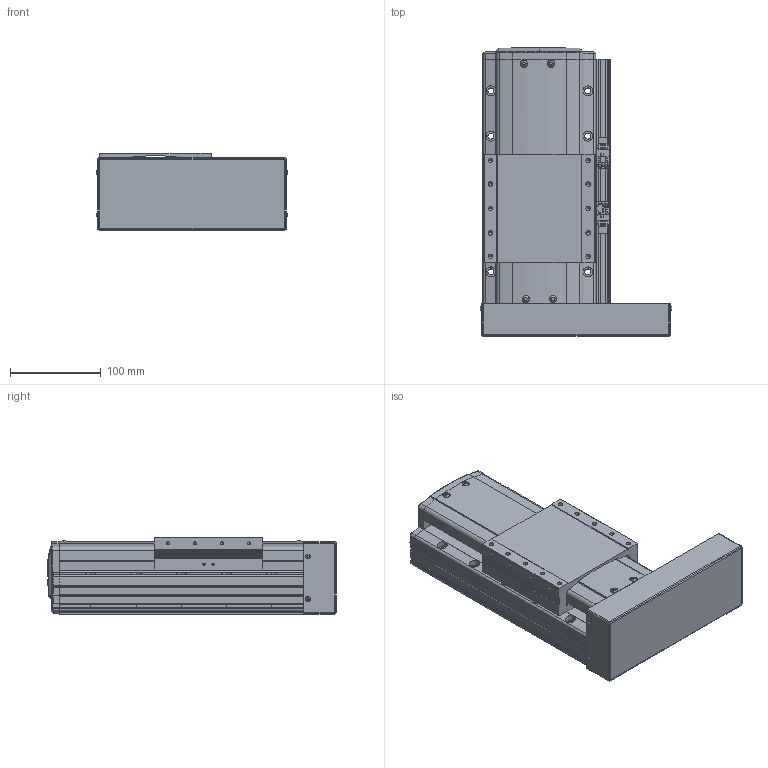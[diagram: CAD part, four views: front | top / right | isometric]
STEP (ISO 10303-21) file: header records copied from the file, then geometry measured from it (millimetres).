
FILE_DESCRIPTION(('STEP AP214'),'1');
FILE_NAME('Z:/Web/3D/PSA125/STP/PSA125-050 (3D)/PSA125ㅁㅁ-050PR+2SR.stp','2014-06-18T08:38:08',(' '),(' '),'Spatial InterOp 3D',' ',' ');
FILE_SCHEMA(('automotive_design'));
Length unit declared in the file: millimetre
Products named in the file (37): 스크루 : Round - M4.0 x 10.0; RRCV-PA120; SLIDE; BASE; FRCV-PA120-1(기준 뿔 제거); RR1500; 스크루 : Round - M4.0 x 6.0; 너트 : Square - M10.0 x 220.7419; BTCV - 60A; 스크루 : Round - M3.0 x 6.0; EE-SX674; SBK-SX674-352; M3.0 x 6.0; SRL-16x17-380L; SGD-PA95; 스크루 : Round - M3.0 x 8.0
Bounding box: 212.13 x 318.6 x 86 mm (x, y, z)
Volume: 3155806.5 mm3; surface area: 356443.4 mm2
Topology: 37 solids, 37 shells, 2236 faces, 5961 edges, 3832 vertices
Faces by surface type: plane 1310, cylinder 610, cone 200, sphere 60, bspline 31, torus 25
Entity records: 89708 total; most frequent: CARTESIAN_POINT 14842, DIRECTION 11885, ORIENTED_EDGE 11710, EDGE_CURVE 5855, LINE 4005, VECTOR 4005, AXIS2_PLACEMENT_3D 3940, VERTEX_POINT 3832
